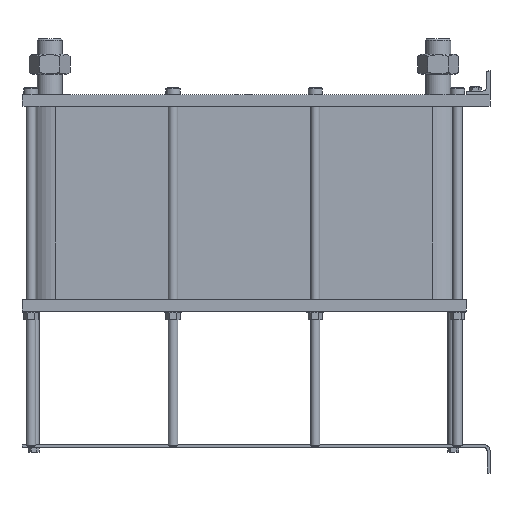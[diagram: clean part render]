
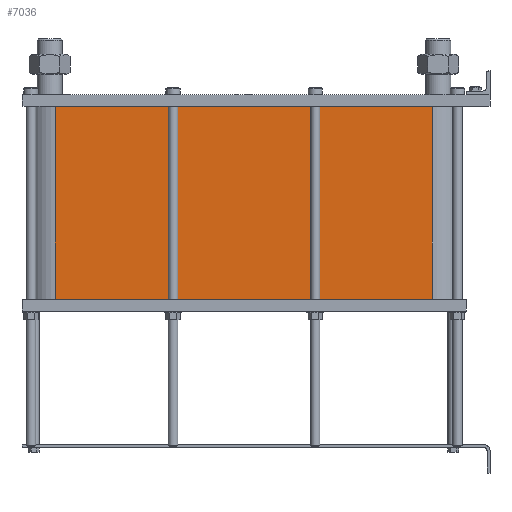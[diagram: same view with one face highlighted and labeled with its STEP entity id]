
A CAD part, left-side view. The second image highlights one B-rep face of the part: STEP entity #7036.
In plain terms, the highlighted planar face has unit normal (-1, 0, 0).
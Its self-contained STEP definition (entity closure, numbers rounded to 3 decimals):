
#999=LINE('',#15640,#1553);
#1031=LINE('',#15723,#1585);
#1032=LINE('',#15726,#1586);
#1033=LINE('',#15727,#1587);
#1553=VECTOR('',#9658,10.);
#1585=VECTOR('',#9736,10.);
#1586=VECTOR('',#9741,10.);
#1587=VECTOR('',#9742,10.);
#2117=FACE_OUTER_BOUND('',#2671,.T.);
#2671=EDGE_LOOP('',(#6246,#6247,#6248,#6249));
#3527=VERTEX_POINT('',#15634);
#3529=VERTEX_POINT('',#15638);
#3556=VERTEX_POINT('',#15720);
#3557=VERTEX_POINT('',#15722);
#4425=EDGE_CURVE('',#3529,#3527,#999,.T.);
#4466=EDGE_CURVE('',#3557,#3556,#1031,.T.);
#4468=EDGE_CURVE('',#3527,#3556,#1032,.T.);
#4469=EDGE_CURVE('',#3557,#3529,#1033,.T.);
#6246=ORIENTED_EDGE('',*,*,#4468,.F.);
#6247=ORIENTED_EDGE('',*,*,#4425,.F.);
#6248=ORIENTED_EDGE('',*,*,#4469,.F.);
#6249=ORIENTED_EDGE('',*,*,#4466,.T.);
#6608=PLANE('',#7812);
#7036=ADVANCED_FACE('',(#2117),#6608,.T.);
#7812=AXIS2_PLACEMENT_3D('',#15725,#9739,#9740);
#9658=DIRECTION('',(0.,0.,-1.));
#9736=DIRECTION('',(0.,0.,-1.));
#9739=DIRECTION('center_axis',(-1.,0.,0.));
#9740=DIRECTION('ref_axis',(0.,1.,0.));
#9741=DIRECTION('',(0.,1.,0.));
#9742=DIRECTION('',(0.,-1.,0.));
#15634=CARTESIAN_POINT('',(-72.,97.5,-325.5));
#15638=CARTESIAN_POINT('',(-72.,97.5,0.));
#15640=CARTESIAN_POINT('',(-72.,97.5,0.));
#15720=CARTESIAN_POINT('',(-72.,733.5,-325.5));
#15722=CARTESIAN_POINT('',(-72.,733.5,0.));
#15723=CARTESIAN_POINT('',(-72.,733.5,0.));
#15725=CARTESIAN_POINT('Origin',(-72.,97.5,0.));
#15726=CARTESIAN_POINT('',(-72.,256.5,-325.5));
#15727=CARTESIAN_POINT('',(-72.,733.5,0.));
